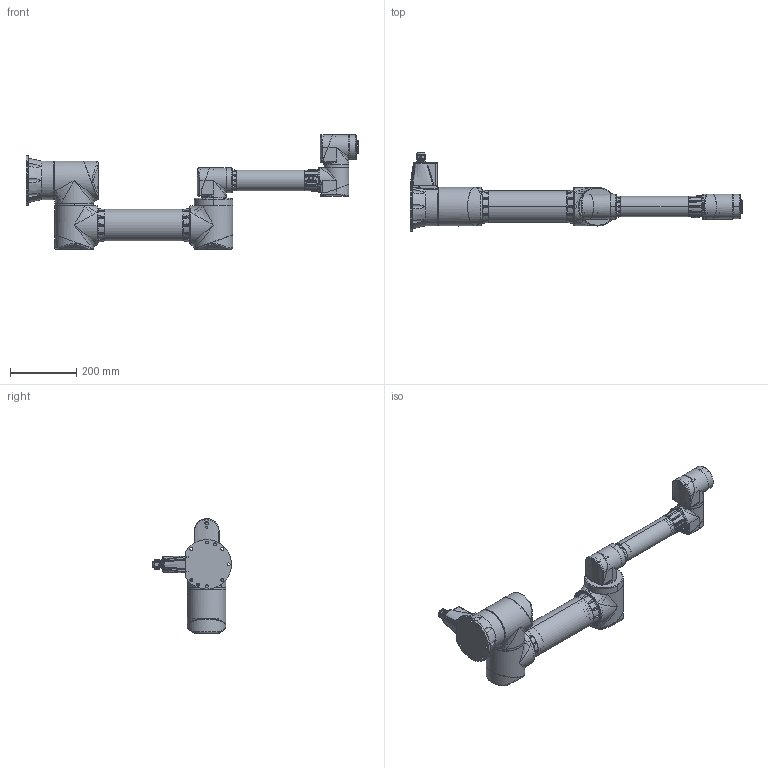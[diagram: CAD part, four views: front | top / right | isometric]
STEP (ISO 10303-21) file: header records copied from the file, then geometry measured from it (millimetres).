
FILE_DESCRIPTION((''),'2;1');
FILE_NAME('ZRA_0507N_ASM','2022-11-10T09:23:02',('ChoSeongHee'),(''),'CREO PARAMETRIC BY PTC INC, 2020354','CREO PARAMETRIC BY PTC INC, 2020354','');
FILE_SCHEMA(('CONFIG_CONTROL_DESIGN'));
Products named in the file (25): FLANGE_B; HOLDER_M; COVER_M; MODULE_M_ASM; RING_M; ARM1_PIPE; FLANGE_ARM1; ARM1_ASM; FLANGE_J3; HOLDER_S; COVER_S; MODULE_S_ASM; PIPE2; FLANGE_J4; FLANGE_J5; PLATE; PORT; ARM2_ASM; FLANGE_E; RING_S; COVER_J; CABLE; PLATE_J; COVER_J_ASM; ZRA_0507N_ASM
Assembly tree (29 placements, depth 3):
  ZRA_0507N_ASM
    FLANGE_B
    MODULE_M_ASM  x3
      HOLDER_M
      COVER_M
    RING_M
    ARM1_ASM
      ARM1_PIPE
      FLANGE_ARM1  x2
    FLANGE_J3
    MODULE_S_ASM  x3
      HOLDER_S
      COVER_S
    ARM2_ASM
      PIPE2
      FLANGE_J4
      FLANGE_J5
      PLATE
      PORT
    FLANGE_E
    RING_S
    COVER_J_ASM
      COVER_J
      CABLE
      PLATE_J
Bounding box: 1000.1 x 237.3 x 344.89 mm (x, y, z)
Volume: 12154868.7 mm3; surface area: 929052.5 mm2
Topology: 28 solids, 212 shells, 3861 faces, 10478 edges, 6914 vertices
Faces by surface type: cylinder 1409, plane 1297, bspline 650, torus 269, cone 210, sphere 18, extrusion 8
Entity records: 146255 total; most frequent: CARTESIAN_POINT 72340, ORIENTED_EDGE 16264, DIRECTION 13894, EDGE_CURVE 8266, VERTEX_POINT 5414, AXIS2_PLACEMENT_3D 5218, VECTOR 3458, LINE 3450
